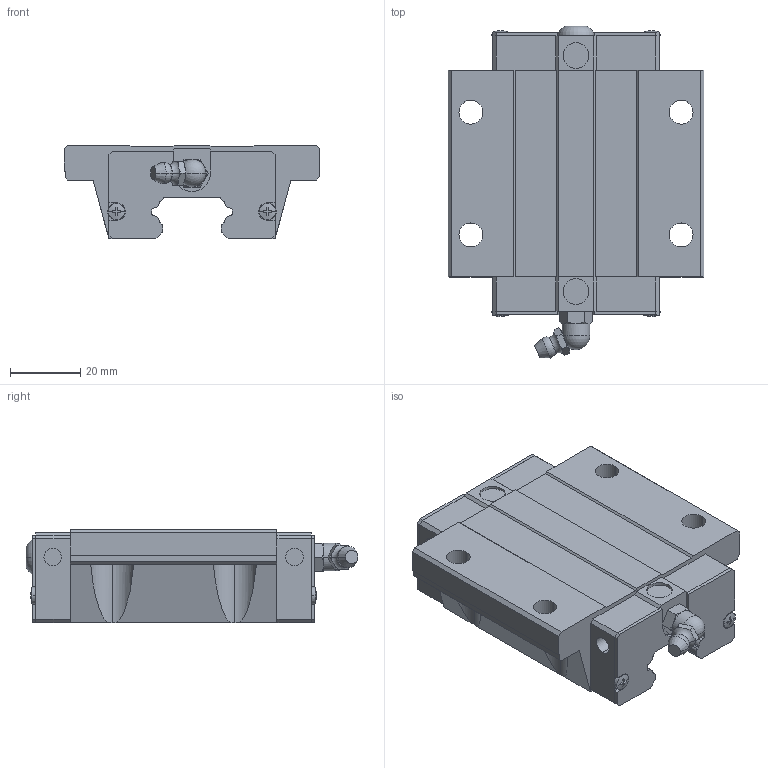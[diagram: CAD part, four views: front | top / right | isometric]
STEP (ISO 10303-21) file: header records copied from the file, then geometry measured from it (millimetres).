
FILE_DESCRIPTION(('no description'),'unknown implementation level');
FILE_NAME('QEW25CC_Z0_H_SS_25.stp',' ',('HIWIN GmbH'),('CADClick - KiM GmbH - www.kimweb.de'),'unknown preprocess','ACIS','unknown authorization');
FILE_SCHEMA(('automotive_design'));
Length unit declared in the file: millimetre
Products named in the file (1): QEW25CC Z0 H SS
Bounding box: 73 x 94.71 x 26.8 mm (x, y, z)
Volume: 97893.5 mm3; surface area: 21273.4 mm2
Topology: 1 solids, 1 shells, 338 faces, 931 edges, 603 vertices
Faces by surface type: plane 216, cylinder 76, cone 26, torus 18, sphere 2
Entity records: 21306 total; most frequent: CARTESIAN_POINT 2383, STYLED_ITEM 1871, PRESENTATION_STYLE_ASSIGNMENT 1871, COLOUR_RGB 1871, ORIENTED_EDGE 1858, DIRECTION 1728, EDGE_CURVE 929, CURVE_STYLE 929
